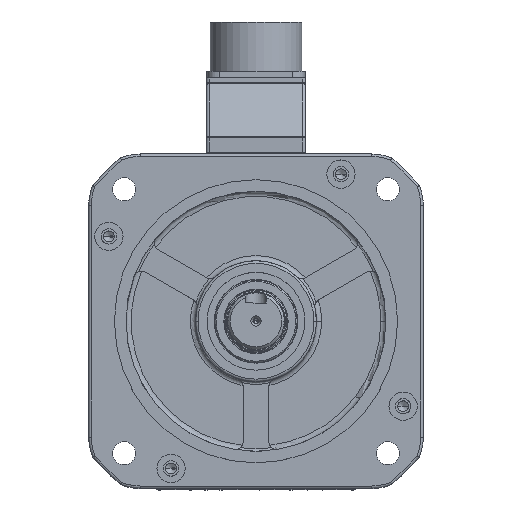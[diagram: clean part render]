
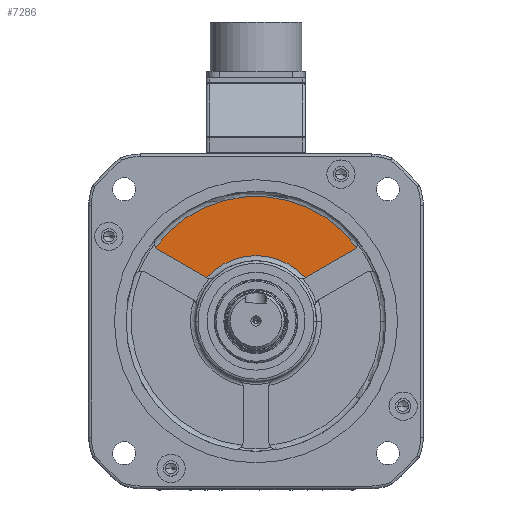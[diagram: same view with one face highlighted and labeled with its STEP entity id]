
A CAD part, top view. The second image highlights one B-rep face of the part: STEP entity #7286.
In plain terms, the highlighted planar face has unit normal (0, 0, 1).
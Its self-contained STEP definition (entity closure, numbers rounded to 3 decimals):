
#208 = VECTOR ( 'NONE', #66794, 1000. ) ;
#543 = EDGE_CURVE ( 'NONE', #36028, #63977, #18464, .T. ) ;
#2258 = EDGE_CURVE ( 'NONE', #77378, #23254, #64155, .T. ) ;
#2368 = DIRECTION ( 'NONE',  ( 0., 0., 1. ) ) ;
#3403 = DIRECTION ( 'NONE',  ( 1., 0., 0. ) ) ;
#4301 = CARTESIAN_POINT ( 'NONE',  ( 19.379, 16.962, 0.5 ) ) ;
#4394 = CIRCLE ( 'NONE', #68729, 3. ) ;
#4857 = EDGE_CURVE ( 'NONE', #34199, #46596, #75402, .T. ) ;
#5224 = EDGE_LOOP ( 'NONE', ( #83088, #64071, #55239, #19664, #31251, #61758, #18134, #60538 ) ) ;
#7286 = ADVANCED_FACE ( 'NONE', ( #26537 ), #21054, .T. ) ;
#10124 = CARTESIAN_POINT ( 'NONE',  ( 2.5, 4.33, 0.5 ) ) ;
#11939 = CARTESIAN_POINT ( 'NONE',  ( -38.049, 27.741, 0.5 ) ) ;
#12171 = DIRECTION ( 'NONE',  ( 0.866, 0.5, 0. ) ) ;
#14748 = CARTESIAN_POINT ( 'NONE',  ( 19.147, 16.841, 0.5 ) ) ;
#16710 = CARTESIAN_POINT ( 'NONE',  ( 38.049, 27.741, 0.5 ) ) ;
#18134 = ORIENTED_EDGE ( 'NONE', *, *, #2258, .T. ) ;
#18464 = LINE ( 'NONE', #69667, #52405 ) ;
#19664 = ORIENTED_EDGE ( 'NONE', *, *, #543, .T. ) ;
#20894 = CARTESIAN_POINT ( 'NONE',  ( 0., 0., 0.5 ) ) ;
#21054 = PLANE ( 'NONE',  #73587 ) ;
#21655 = VERTEX_POINT ( 'NONE', #49840 ) ;
#23254 = VERTEX_POINT ( 'NONE', #11939 ) ;
#26382 = DIRECTION ( 'NONE',  ( 1., 0., 0. ) ) ;
#26537 = FACE_OUTER_BOUND ( 'NONE', #5224, .T. ) ;
#27986 = CARTESIAN_POINT ( 'NONE',  ( -36.549, 30.339, 0.5 ) ) ;
#28470 = AXIS2_PLACEMENT_3D ( 'NONE', #20894, #45272, #26382 ) ;
#31251 = ORIENTED_EDGE ( 'NONE', *, *, #53875, .T. ) ;
#34199 = VERTEX_POINT ( 'NONE', #48579 ) ;
#35733 = AXIS2_PLACEMENT_3D ( 'NONE', #40992, #2368, #46880 ) ;
#36028 = VERTEX_POINT ( 'NONE', #4301 ) ;
#38260 = DIRECTION ( 'NONE',  ( 0., 0., 1. ) ) ;
#39147 = DIRECTION ( 'NONE',  ( 0., 0., 1. ) ) ;
#40048 = AXIS2_PLACEMENT_3D ( 'NONE', #27986, #53603, #48136 ) ;
#40992 = CARTESIAN_POINT ( 'NONE',  ( 0., 0., 0.5 ) ) ;
#42977 = EDGE_CURVE ( 'NONE', #21655, #34199, #4394, .T. ) ;
#44384 = DIRECTION ( 'NONE',  ( 0., 0., 1. ) ) ;
#45272 = DIRECTION ( 'NONE',  ( 0., 0., -1. ) ) ;
#45611 = CARTESIAN_POINT ( 'NONE',  ( 17.879, 19.56, 0.5 ) ) ;
#46596 = VERTEX_POINT ( 'NONE', #14748 ) ;
#46880 = DIRECTION ( 'NONE',  ( 1., 0., 0. ) ) ;
#48136 = DIRECTION ( 'NONE',  ( 1., 0., 0. ) ) ;
#48163 = EDGE_CURVE ( 'NONE', #64390, #77378, #63877, .T. ) ;
#48579 = CARTESIAN_POINT ( 'NONE',  ( -19.147, 16.841, 0.5 ) ) ;
#49840 = CARTESIAN_POINT ( 'NONE',  ( -19.379, 16.962, 0.5 ) ) ;
#52405 = VECTOR ( 'NONE', #12171, 1000. ) ;
#53603 = DIRECTION ( 'NONE',  ( 0., 0., 1. ) ) ;
#53875 = EDGE_CURVE ( 'NONE', #63977, #64390, #57947, .T. ) ;
#54606 = CARTESIAN_POINT ( 'NONE',  ( -17.879, 19.56, 0.5 ) ) ;
#55239 = ORIENTED_EDGE ( 'NONE', *, *, #66884, .T. ) ;
#56995 = CIRCLE ( 'NONE', #63714, 3. ) ;
#57141 = CARTESIAN_POINT ( 'NONE',  ( 36.549, 30.339, 0.5 ) ) ;
#57492 = CARTESIAN_POINT ( 'NONE',  ( -39.078, 28.726, 0.5 ) ) ;
#57947 = CIRCLE ( 'NONE', #65972, 3. ) ;
#59269 = CARTESIAN_POINT ( 'NONE',  ( 0., 0., 0.5 ) ) ;
#59686 = DIRECTION ( 'NONE',  ( 1., 0., 0. ) ) ;
#60538 = ORIENTED_EDGE ( 'NONE', *, *, #78727, .F. ) ;
#60916 = DIRECTION ( 'NONE',  ( 0., 0., 1. ) ) ;
#61758 = ORIENTED_EDGE ( 'NONE', *, *, #48163, .T. ) ;
#63714 = AXIS2_PLACEMENT_3D ( 'NONE', #45611, #44384, #71220 ) ;
#63877 = CIRCLE ( 'NONE', #35733, 48.5 ) ;
#63977 = VERTEX_POINT ( 'NONE', #16710 ) ;
#64071 = ORIENTED_EDGE ( 'NONE', *, *, #4857, .T. ) ;
#64155 = CIRCLE ( 'NONE', #40048, 3. ) ;
#64390 = VERTEX_POINT ( 'NONE', #81677 ) ;
#65094 = DIRECTION ( 'NONE',  ( 1., 0., 0. ) ) ;
#65972 = AXIS2_PLACEMENT_3D ( 'NONE', #57141, #38260, #65094 ) ;
#66794 = DIRECTION ( 'NONE',  ( -0.866, 0.5, 0. ) ) ;
#66884 = EDGE_CURVE ( 'NONE', #46596, #36028, #56995, .T. ) ;
#67224 = LINE ( 'NONE', #10124, #208 ) ;
#68729 = AXIS2_PLACEMENT_3D ( 'NONE', #54606, #60916, #3403 ) ;
#69667 = CARTESIAN_POINT ( 'NONE',  ( -2.5, 4.33, 0.5 ) ) ;
#71220 = DIRECTION ( 'NONE',  ( 1., 0., 0. ) ) ;
#73587 = AXIS2_PLACEMENT_3D ( 'NONE', #59269, #39147, #59686 ) ;
#75402 = CIRCLE ( 'NONE', #28470, 25.5 ) ;
#77378 = VERTEX_POINT ( 'NONE', #57492 ) ;
#78727 = EDGE_CURVE ( 'NONE', #21655, #23254, #67224, .T. ) ;
#81677 = CARTESIAN_POINT ( 'NONE',  ( 39.078, 28.726, 0.5 ) ) ;
#83088 = ORIENTED_EDGE ( 'NONE', *, *, #42977, .T. ) ;
